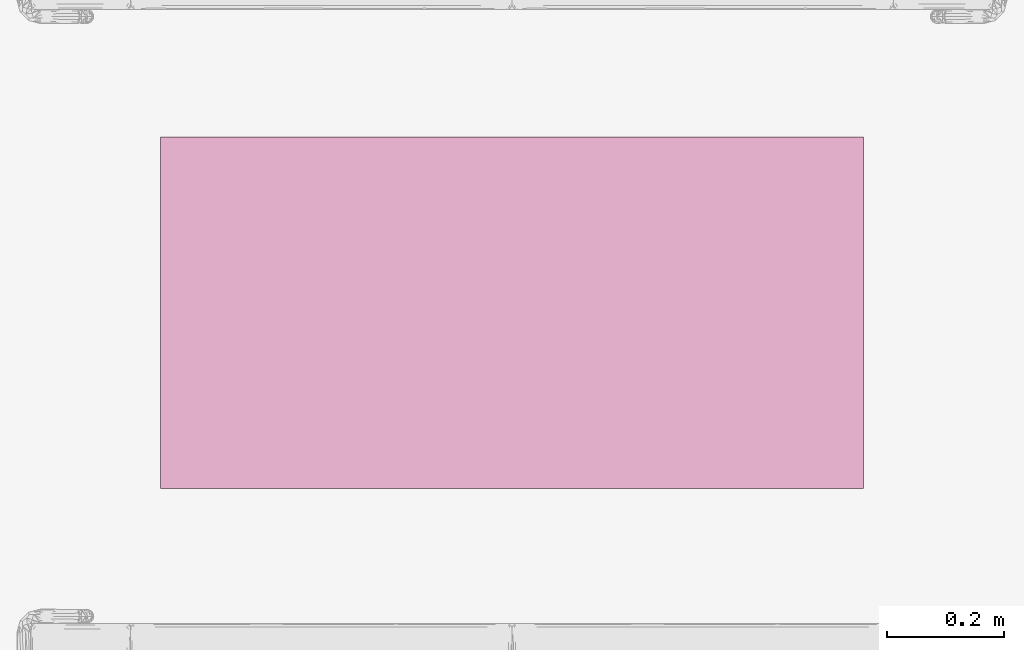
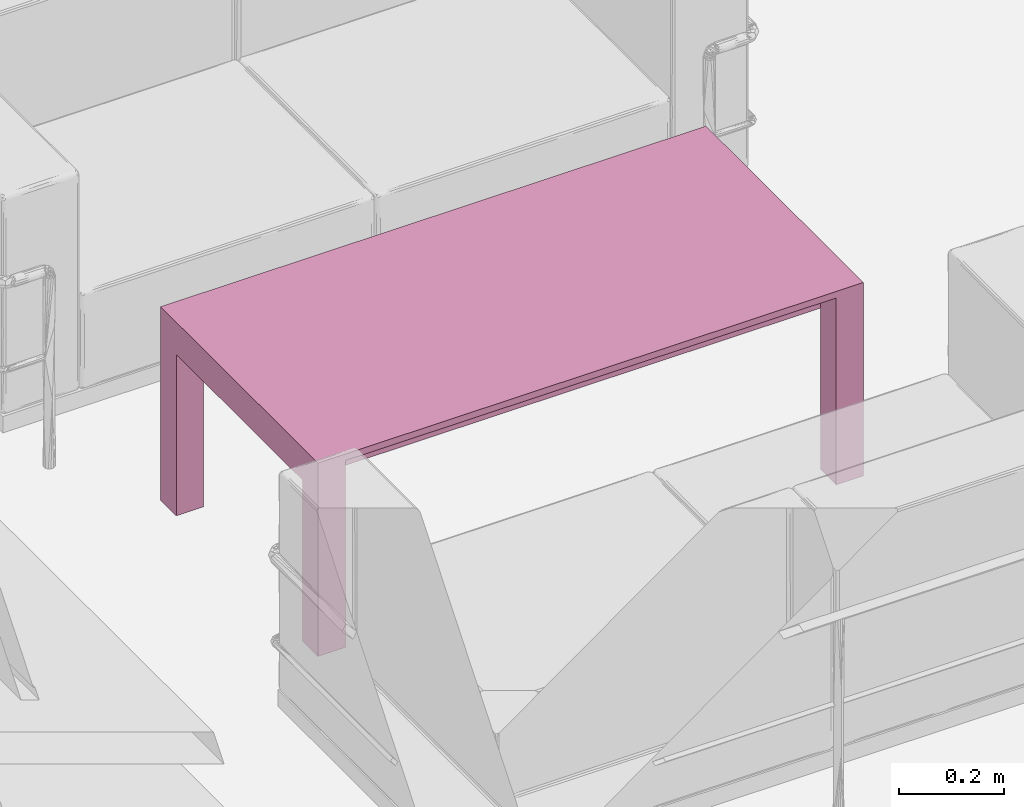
# One storey, part 39 of 65: 1 furnishing.
"""IFC2X3 building model written with IfcOpenShell, lengths in millimetres."""

import ifcopenshell
import ifcopenshell.guid

model = None  # the IFC model being written
_history = None  # IfcOwnerHistory: only IFC2X3 demands one
_inside = {}  # id of a spatial element -> (the spatial element, [elements in it])
_under = {}  # id of a project, library or spatial element -> (it, [spatial elements below it])
_declared = {}  # id of a project -> (the project, [libraries it declares])
_typed = {}  # id of a type object -> (the type object, [elements of that type])
_made_of = {}  # id of a material, layer set ... -> (it, [elements and type objects made of it])


def new_model(schema):
    """Start an empty IFC model of exactly this schema.

    Asked for "IFC4X3", IfcOpenShell would pick the latest addendum, in which some entities
    have other attributes; the version numbers below select the first issue.
    IFC2X3 requires an IfcOwnerHistory on every rooted entity: one is made here for all.
    """
    global model, _history
    if schema == "IFC4X3":
        model = ifcopenshell.file(schema_version=(4, 3, 0, 0))
    else:
        model = ifcopenshell.file(schema=schema)
    _inside.clear()
    _under.clear()
    _declared.clear()
    _typed.clear()
    _made_of.clear()
    _history = None
    if model.schema == "IFC2X3":
        org = make("IfcOrganization", Name="unknown")
        user = make(
            "IfcPersonAndOrganization",
            ThePerson=make("IfcPerson", FamilyName="unknown"),
            TheOrganization=org,
        )
        app = make(
            "IfcApplication",
            ApplicationDeveloper=org,
            Version="unknown",
            ApplicationFullName="unknown",
            ApplicationIdentifier="unknown",
        )
        _history = make(
            "IfcOwnerHistory",
            OwningUser=user,
            OwningApplication=app,
            ChangeAction="ADDED",
            CreationDate=0,
        )
    return model


def make(cls, **values):
    """One entity of the class cls with the attributes given. An attribute that is None is left unset."""
    return model.create_entity(
        cls, **{name: value for name, value in values.items() if value is not None}
    )


def entity(cls, *values):
    """Any entity or typed value of the class cls, its attributes in the order of the schema. None: left unset."""
    e = model.create_entity(cls)
    for i, value in enumerate(values):
        if value is not None:
            e[i] = value
    return e


def rooted(cls, **values):
    """An entity with a GlobalId (a new one), such as an element, a storey or a relation."""
    return make(cls, GlobalId=ifcopenshell.guid.new(), OwnerHistory=_history, **values)


def si_unit(unit_type, name, prefix=None):
    """IfcSIUnit, for example si_unit("LENGTHUNIT", "METRE", prefix="MILLI")."""
    return make("IfcSIUnit", UnitType=unit_type, Prefix=prefix, Name=name)


def converted_unit(unit_type, name, factor, base, dimensions=None, offset=None):
    """IfcConversionBasedUnit, such as the inch: factor (a typed value) times the base unit."""
    return make(
        "IfcConversionBasedUnit"
        if offset is None
        else "IfcConversionBasedUnitWithOffset",
        ConversionOffset=offset,
        Dimensions=None
        if dimensions is None
        else entity("IfcDimensionalExponents", *dimensions),
        UnitType=unit_type,
        Name=name,
        ConversionFactor=make(
            "IfcMeasureWithUnit", ValueComponent=factor, UnitComponent=base
        ),
    )


def assignment(units):
    """IfcUnitAssignment: the units of a project."""
    return None if units is None else make("IfcUnitAssignment", Units=units)


def point(xyz):
    """IfcCartesianPoint."""
    return None if xyz is None else make("IfcCartesianPoint", Coordinates=xyz)


def direction(xyz):
    """IfcDirection."""
    return None if xyz is None else make("IfcDirection", DirectionRatios=xyz)


def frame(location, z_axis=None, x_axis=None):
    """IfcAxis2Placement3D, a coordinate frame: its origin and axes. An axis left out is left unset."""
    return make(
        "IfcAxis2Placement3D",
        Location=point(location),
        Axis=direction(z_axis),
        RefDirection=direction(x_axis),
    )


def frame_2d(location, x_axis=None):
    """IfcAxis2Placement2D, a coordinate frame in the plane: its origin and x axis."""
    return make(
        "IfcAxis2Placement2D", Location=point(location), RefDirection=direction(x_axis)
    )


def origin():
    """The frame at (0, 0, 0) with its axes left unset."""
    return frame((0.0, 0.0, 0.0))


def origin_2d_with_axis():
    """The frame at (0, 0) in the plane with the x axis (1, 0) written out."""
    return frame_2d((0.0, 0.0), x_axis=(1.0, 0.0))


def place(relative_to, where):
    """IfcLocalPlacement: puts the frame where relative to a parent placement (None: the world)."""
    return make(
        "IfcLocalPlacement", PlacementRelTo=relative_to, RelativePlacement=where
    )


def context(
    kind, dimensions, precision=None, world=None, true_north=None, identifier=None
):
    """IfcGeometricRepresentationContext, for example the 3D "Model" context."""
    return make(
        "IfcGeometricRepresentationContext",
        ContextIdentifier=identifier,
        ContextType=kind,
        CoordinateSpaceDimension=dimensions,
        Precision=precision,
        WorldCoordinateSystem=world,
        TrueNorth=true_north,
    )


def subcontext(parent, identifier, kind, view, scale=None):
    """IfcGeometricRepresentationSubContext, for example "Body" below "Model"."""
    return make(
        "IfcGeometricRepresentationSubContext",
        ContextIdentifier=identifier,
        ContextType=kind,
        ParentContext=parent,
        TargetScale=scale,
        TargetView=view,
    )


def project(units=None, contexts=None):
    """IfcProject with its units and contexts."""
    return rooted(
        "IfcProject",
        Name="project",
        RepresentationContexts=contexts,
        UnitsInContext=assignment(units),
    )


def spatial(cls, under=None, at=None, **own):
    """A site, building, storey or space (cls), placed at a placement, below another one or the project."""
    s = rooted(cls, ObjectPlacement=at, **own)
    if under is not None:
        _under.setdefault(under.id(), (under, []))[1].append(s)
    return s


def polyline(points):
    """IfcPolyline through the points."""
    return make("IfcPolyline", Points=[point(p) for p in points])


def profile(cls, at=None, kind="AREA", **sizes):
    """A parametric profile (cls). Its sizes go by their IFC names, for example OverallWidth=200.0."""
    return make(cls, ProfileType=kind, Position=at, **sizes)


def rectangle(**sizes):
    """IfcRectangleProfileDef."""
    return profile("IfcRectangleProfileDef", **sizes)


def outline(outer, holes=None, kind="AREA"):
    """IfcArbitraryClosedProfileDef: a profile drawn as a closed curve; with holes, ...WithVoids."""
    if holes is None:
        return make("IfcArbitraryClosedProfileDef", ProfileType=kind, OuterCurve=outer)
    return make(
        "IfcArbitraryProfileDefWithVoids",
        ProfileType=kind,
        OuterCurve=outer,
        InnerCurves=holes,
    )


def extrude(swept, where, along, depth):
    """IfcExtrudedAreaSolid: the profile swept, set in the frame where, extruded along a direction by depth."""
    return make(
        "IfcExtrudedAreaSolid",
        SweptArea=swept,
        Position=where,
        ExtrudedDirection=direction(along),
        Depth=depth,
    )


def shape(context_of_items, identifier, shape_type, items):
    """IfcShapeRepresentation: the items that make up one representation, for example the "Body"."""
    return make(
        "IfcShapeRepresentation",
        ContextOfItems=context_of_items,
        RepresentationIdentifier=identifier,
        RepresentationType=shape_type,
        Items=items,
    )


def source(mapping_origin, context_of_items, identifier, shape_type, items):
    """IfcRepresentationMap: a shape defined once, which mapped items show again and again."""
    return make(
        "IfcRepresentationMap",
        MappingOrigin=mapping_origin,
        MappedRepresentation=shape(context_of_items, identifier, shape_type, items),
    )


def transform(
    local_origin,
    x_axis=None,
    y_axis=None,
    z_axis=None,
    scale=None,
    scale2=None,
    scale3=None,
    uniform=True,
):
    """IfcCartesianTransformationOperator3D, or its non-uniform kind. x_axis, y_axis, z_axis: its Axis1, 2, 3."""
    if uniform:
        return make(
            "IfcCartesianTransformationOperator3D",
            Axis1=direction(x_axis),
            Axis2=direction(y_axis),
            LocalOrigin=point(local_origin),
            Scale=scale,
            Axis3=direction(z_axis),
        )
    return make(
        "IfcCartesianTransformationOperator3DnonUniform",
        Axis1=direction(x_axis),
        Axis2=direction(y_axis),
        LocalOrigin=point(local_origin),
        Scale=scale,
        Axis3=direction(z_axis),
        Scale2=scale2,
        Scale3=scale3,
    )


def mapped(mapping_source, mapping_target):
    """IfcMappedItem: shows the shape of a source again, moved by a transform."""
    return make(
        "IfcMappedItem", MappingSource=mapping_source, MappingTarget=mapping_target
    )


def material(Name=None, Category=None):
    """IfcMaterial."""
    return make("IfcMaterial", Name=Name, Category=Category)


def material_list(materials):
    """IfcMaterialList."""
    return make("IfcMaterialList", Materials=materials)


def made_of(thing, what):
    """Note that an element or type object is made of a material, layer set ...; save() writes the relation."""
    if what is not None:
        _made_of.setdefault(what.id(), (what, []))[1].append(thing)
    return thing


def type_object(cls, material=None, **own):
    """A type object (cls), such as IfcWallType, which elements share."""
    return made_of(rooted(cls, **own), material)


def type_shapes(of_type, sources):
    """Give a type object the sources (RepresentationMaps) that its elements show as mapped items."""
    of_type.RepresentationMaps = sources


def element(
    cls,
    number,
    at=None,
    inside=None,
    cuts=None,
    type_object=None,
    material=None,
    context=None,
    identifier="Body",
    shape_type=None,
    held_by="IfcProductDefinitionShape",
    body=None,
    shapes=None,
    **own,
):
    """One element of the class cls, such as IfcWall. Its Tag is "e" and its number.

    at: its placement. inside: the storey or other place that contains it. cuts: it is an
    opening in that element (IfcRelVoidsElement). A single representation is given by context,
    identifier, shape_type and body (its items); several are given by shapes. held_by: the class
    of the entity that holds the representations. save() writes the other relations.
    """
    e = rooted(cls, Tag="e%d" % number, ObjectPlacement=at, **own)
    if body is not None:
        shapes = [shape(context, identifier, shape_type, body)]
    if shapes is not None:
        e.Representation = make(held_by, Representations=shapes)
    if inside is not None:
        _inside.setdefault(inside.id(), (inside, []))[1].append(e)
    if cuts is not None:
        rooted(
            "IfcRelVoidsElement", RelatingBuildingElement=cuts, RelatedOpeningElement=e
        )
    if type_object is not None:
        _typed.setdefault(type_object.id(), (type_object, []))[1].append(e)
    return made_of(e, material)


def aggregate(whole, parts):
    """IfcRelAggregates: a whole, such as a stair, and the parts it consists of."""
    return rooted("IfcRelAggregates", RelatingObject=whole, RelatedObjects=parts)


def save(model, path):
    """Write the relations noted so far, then the file.

    IfcRelAggregates (storeys below a building ...), IfcRelContainedInSpatialStructure (elements
    in a storey), IfcRelDefinesByType, IfcRelAssociatesMaterial and IfcRelDeclares: one each for
    every whole, place, type object, material and project.
    """
    for whole, parts in _under.values():
        aggregate(whole, parts)
    for where, things in _inside.values():
        rooted(
            "IfcRelContainedInSpatialStructure",
            RelatedElements=things,
            RelatingStructure=where,
        )
    for kind, things in _typed.values():
        rooted("IfcRelDefinesByType", RelatedObjects=things, RelatingType=kind)
    for what, things in _made_of.values():
        rooted("IfcRelAssociatesMaterial", RelatedObjects=things, RelatingMaterial=what)
    for by, libraries in _declared.values():
        rooted("IfcRelDeclares", RelatingContext=by, RelatedDefinitions=libraries)
    model.write(path)


model = new_model("IFC2X3")

# Units and contexts
model_context = context("Model", 3, precision=0.01, world=origin(), true_north=direction((0.0, 1.0)))
body_context = subcontext(model_context, "Body", "Model", "MODEL_VIEW")
ifc_project = project(units=[si_unit("LENGTHUNIT", "METRE", prefix="MILLI"), si_unit("AREAUNIT", "SQUARE_METRE"), si_unit("VOLUMEUNIT", "CUBIC_METRE"), converted_unit("PLANEANGLEUNIT", "DEGREE", entity("IfcPlaneAngleMeasure", 0.017453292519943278), si_unit("PLANEANGLEUNIT", "RADIAN"), dimensions=[0, 0, 0, 0, 0, 0, 0])], contexts=[model_context])

# Site, building, storey, space
site_placement = place(None, origin())
site = spatial("IfcSite", under=ifc_project, at=site_placement, Name="Default", CompositionType="ELEMENT")
building_placement = place(site_placement, origin())
building = spatial("IfcBuilding", under=site, at=building_placement, CompositionType="ELEMENT")
storey_placement = place(building_placement, origin())
storey = spatial("IfcBuildingStorey", under=building, at=storey_placement, Name="Et. 1", CompositionType="ELEMENT", Elevation=0.0)
space_placement = place(storey_placement, origin())
space = spatial("IfcSpace", under=storey, at=space_placement, Name="105", CompositionType="ELEMENT", InteriorOrExteriorSpace="INTERNAL")

# Furnishing
ifc_material_1 = material(Name="Focus - Møbler - Kaffebord - Ramme")
ifc_material_2 = material(Name="Focus - Møbler - Kaffebord - Glass")
ifc_material_list = material_list([ifc_material_1, ifc_material_2])
furniture_type = type_object("IfcFurnitureType", Name="Stuebord (1):1200x600x450", AssemblyPlace="NOTDEFINED", material=ifc_material_list)
shared_shape = source(origin(), body_context, "Body", "SweptSolid", [
    extrude(outline(polyline([(-600.0, -300.0), (600.0, -300.0), (600.0, 300.0), (-600.0, 300.0), (-600.0, -300.0)]), holes=[polyline([(-540.0, -240.0), (-540.0, 240.0), (540.0, 240.0), (540.0, -240.0), (-540.0, -240.0)])]), frame((18.26576667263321, 95.21107780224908, 435.0), z_axis=(0.0, 0.0, 1.0), x_axis=(-1.0, 0.0, 0.0)), (0.0, 0.0, 1.0), 14.999999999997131),
    extrude(rectangle(XDim=1079.9999999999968, YDim=480.0000000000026, at=origin_2d_with_axis()), frame((18.26576667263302, 95.21107780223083, 435.0), z_axis=(0.0, 0.0, 1.0), x_axis=(-1.0, 0.0, 0.0)), (0.0, 0.0, 1.0), 14.999999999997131),
    extrude(outline(polyline([(-202.5000000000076, -300.0), (232.49999999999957, -300.0), (232.5000000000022, 300.0), (-202.49999999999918, 300.0), (-202.5000000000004, 240.0), (172.50000000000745, 240.0), (172.50000000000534, -240.0), (-202.5000000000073, -240.0), (-202.5000000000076, -300.0)])), frame((558.2657666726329, 95.21107780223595, 202.4999999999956), z_axis=(1.0, 0.0, 0.0), x_axis=(0.0, 0.0, 1.0)), (0.0, 0.0, 1.0), 59.999999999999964),
    extrude(outline(polyline([(-202.50000000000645, -300.0), (232.4999999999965, -300.0), (232.50000000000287, 300.0), (-202.49999999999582, 300.0), (-202.49999999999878, 240.0), (172.50000000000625, 240.0), (172.5000000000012, -240.0), (-202.5000000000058, -240.0), (-202.50000000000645, -300.0)])), frame((-581.7342333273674, 95.21107780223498, 202.49999999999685), z_axis=(1.0, 0.0, 0.0), x_axis=(0.0, 0.0, 1.0)), (0.0, 0.0, 1.0), 60.00000000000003),
    extrude(rectangle(XDim=1080.000000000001, YDim=480.00000000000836, at=frame_2d((5.684341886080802e-14, 0.0), x_axis=(1.0, 0.0))), frame((18.265766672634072, 95.21107780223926, 375.0), z_axis=(0.0, 0.0, 1.0), x_axis=(-1.0, 0.0, 0.0)), (0.0, 0.0, 1.0), 14.999999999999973),
])
type_shapes(furniture_type, [shared_shape])
furnishing_placement = place(space_placement, frame((17881.523660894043, 16488.11522903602, 0.0), z_axis=(0.0, 0.0, 1.0), x_axis=(-1.0, 0.0, 0.0)))
element("IfcFurnishingElement", 1, at=furnishing_placement, inside=space, type_object=furniture_type, material=ifc_material_list, Name="Stuebord (1):1200x600x450", context=body_context, shape_type="MappedRepresentation", body=[
    mapped(shared_shape, transform((0.0, 0.0, 0.0), scale=1.0)),
])

save(model, "model.ifc")
